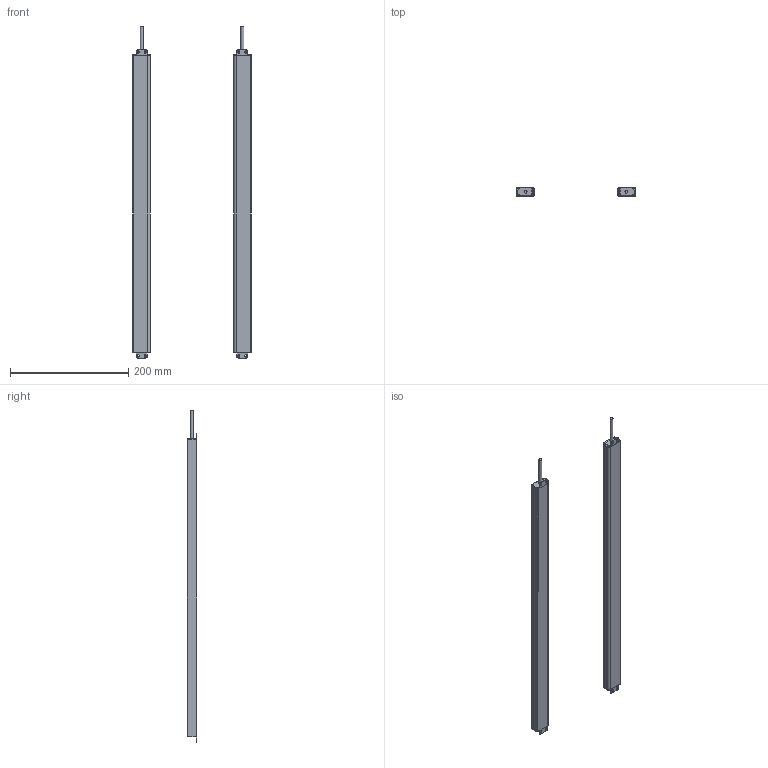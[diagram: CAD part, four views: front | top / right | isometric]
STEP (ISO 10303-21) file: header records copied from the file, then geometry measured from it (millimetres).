
FILE_DESCRIPTION(/* description */ (''),/* implementation_level */ '2;1');
FILE_NAME(/* name */ '5010（16X30w).stp',/* time_stamp */ '2023-10-10T09:28:09+08:00',/* author */ (''),/* organization */ (''),/* preprocessor_version */ 'ST-DEVELOPER v16.7',/* originating_system */ 'SIEMENS PLM Software NX 12.0',/* authorisation */ '');
FILE_SCHEMA (('AP203_CONFIGURATION_CONTROLLED_3D_DESIGN_OF_MECHANICAL_PARTS_AND_ASSEMBLIES_MIM_LF { 1 0 10303 403 2 1 2}'));
Length unit declared in the file: millimetre
Products named in the file (1): 4210（16X30w__stp
Bounding box: 200 x 16 x 561.5 mm (x, y, z)
Volume: 145832.6 mm3; surface area: 215647.4 mm2
Topology: 10 solids, 10 shells, 296 faces, 830 edges, 554 vertices
Faces by surface type: plane 160, cylinder 136
Full cylindrical faces by diameter (mm): 5 x2
Entity records: 9825 total; most frequent: DIRECTION 1692, CARTESIAN_POINT 1675, ORIENTED_EDGE 1652, EDGE_CURVE 826, AXIS2_PLACEMENT_3D 569, LINE 554, VECTOR 554, VERTEX_POINT 552
